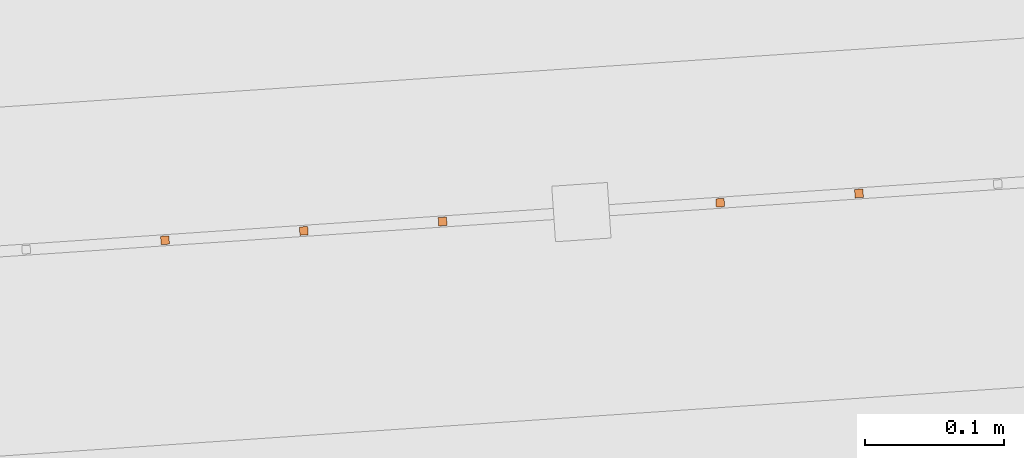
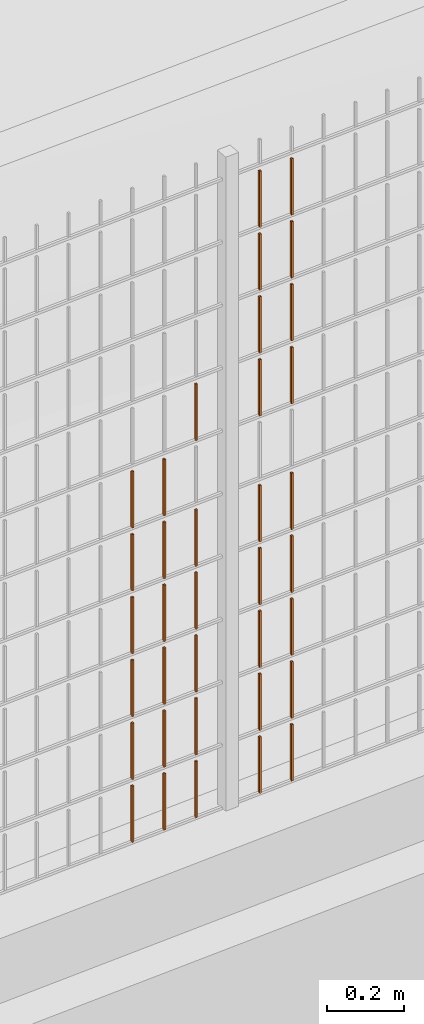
# One storey, part 372 of 1809: 36 proxies, 1 element without a shape of its own.
"""IFC2X3 building model written with IfcOpenShell, lengths in millimetres."""

from ifc_helpers import new_model, entity, si_unit, converted_unit, derived_unit, money_unit, direction, frame, origin_with_axes, place, context, subcontext, project, spatial, faceted_brep, source, transform, mapped, material, type_object, element, aggregate, save


model = new_model("IFC2X3")

# Units and contexts
model_context = context("Model", 3, precision=0.01, world=origin_with_axes(), true_north=direction((0.0, 1.0)))
body_context = subcontext(model_context, "Body", "Model", "MODEL_VIEW")
ifc_project = project(units=[si_unit("LENGTHUNIT", "METRE", prefix="MILLI"), si_unit("AREAUNIT", "SQUARE_METRE"), si_unit("VOLUMEUNIT", "CUBIC_METRE"), converted_unit("PLANEANGLEUNIT", "DEGREE", entity("IfcPlaneAngleMeasure", 0.0174532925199), si_unit("PLANEANGLEUNIT", "RADIAN"), dimensions=[0, 0, 0, 0, 0, 0, 0]), si_unit("SOLIDANGLEUNIT", "STERADIAN"), money_unit("EUR"), converted_unit("TIMEUNIT", "Year", entity("IfcTimeMeasure", 31556926.0), si_unit("TIMEUNIT", "SECOND"), dimensions=[0, 0, 1, 0, 0, 0, 0]), si_unit("MASSUNIT", "GRAM", prefix="KILO"), si_unit("THERMODYNAMICTEMPERATUREUNIT", "DEGREE_CELSIUS"), si_unit("LUMINOUSINTENSITYUNIT", "LUMEN"), si_unit("ENERGYUNIT", "JOULE", prefix="MEGA"), derived_unit("THERMALCONDUCTANCEUNIT", [(si_unit("POWERUNIT", "WATT"), 1), (si_unit("LENGTHUNIT", "METRE"), -1), (si_unit("THERMODYNAMICTEMPERATUREUNIT", "KELVIN"), -1)]), derived_unit("SPECIFICHEATCAPACITYUNIT", [(si_unit("ENERGYUNIT", "JOULE"), 1), (si_unit("MASSUNIT", "GRAM", prefix="KILO"), -1), (si_unit("THERMODYNAMICTEMPERATUREUNIT", "KELVIN"), -1)]), derived_unit("MASSDENSITYUNIT", [(si_unit("MASSUNIT", "GRAM", prefix="KILO"), 1), (si_unit("VOLUMEUNIT", "CUBIC_METRE"), -1)])], contexts=[model_context])

# Site, building, storey
site_placement = place(None, origin_with_axes())
site = spatial("IfcSite", under=ifc_project, at=site_placement, Name="Politse- ja Piirivalveameti ning Päästeameti ühishoone", CompositionType="ELEMENT")
building_placement = place(site_placement, origin_with_axes())
building = spatial("IfcBuilding", under=site, at=building_placement, Name="Politse- ja Piirivalveameti ning Päästeameti ühishoone", CompositionType="ELEMENT")
storey_placement = place(building_placement, origin_with_axes())
storey = spatial("IfcBuildingStorey", under=building, at=storey_placement, Name="Esimene korrus", CompositionType="ELEMENT", Elevation=0.0)

# Proxies
building_element_proxy_type_1 = type_object("IfcBuildingElementProxyType", Name="Railing Type", PredefinedType="NOTDEFINED")
proxy_1_placement = place(storey_placement, frame((89252.001212, -29183.4766571, 203.661247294), z_axis=(0.0, 0.0, 1.0), x_axis=(1.0, 0.0, 0.0)))
proxy_1 = element("IfcBuildingElementProxy", 1, at=proxy_1_placement, inside=storey, type_object=building_element_proxy_type_1, Name="PIIRDEAED")
ifc_material = material(Name="ET-03_Raud")
building_element_proxy_type_2 = type_object("IfcBuildingElementProxyType", Name="IfcBuildingElementProxy", PredefinedType="NOTDEFINED")
shared_shape_1 = source(origin_with_axes(), body_context, "Body", "Brep", [
    faceted_brep([(3.0, 3.0, -0.000752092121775), (-3.0, 3.0, -0.000752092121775), (-3.0, 3.0, 179.99926046), (3.0, 3.0, 179.99926046), (3.0, -3.0, 0.000752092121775), (-3.0, -3.0, 0.000752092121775), (-3.0, -3.0, 180.000764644), (3.0, -3.0, 180.000764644)], [[[0, 1, 2, 3]], [[0, 4, 5, 1]], [[1, 5, 6, 2]], [[3, 2, 6, 7]], [[4, 0, 3, 7]], [[5, 4, 7, 6]]]),
])
proxy_2_placement = place(proxy_1_placement, frame((-19582.0672878, -18620.4695068, 22.3140263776), z_axis=(0.0, 0.0, 1.0), x_axis=(1.0, 0.0, 0.0)))
proxy_2 = element("IfcBuildingElementProxy", 2, at=proxy_2_placement, type_object=building_element_proxy_type_2, material=ifc_material, Name="BALUSTER - 001", context=body_context, shape_type="MappedRepresentation", body=[
    mapped(shared_shape_1, transform((0.0, 0.0, 0.0), x_axis=(-0.0673926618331, 0.997726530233, 0.0), y_axis=(-0.997726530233, -0.0673926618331, 0.0), z_axis=(0.0, 0.0, 1.0))),
])
shared_shape_2 = source(origin_with_axes(), body_context, "Body", "Brep", [
    faceted_brep([(3.0, 3.0, -0.000752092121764), (-3.0, 3.0, -0.000752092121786), (-3.0, 3.0, 179.99926046), (3.0, 3.0, 179.99926046), (3.0, -3.0, 0.000752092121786), (-3.0, -3.0, 0.000752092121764), (-3.0, -3.0, 180.000764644), (3.0, -3.0, 180.000764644)], [[[0, 1, 2, 3]], [[0, 4, 5, 1]], [[1, 5, 6, 2]], [[3, 2, 6, 7]], [[4, 0, 3, 7]], [[5, 4, 7, 6]]]),
])
proxy_3_placement = place(proxy_1_placement, frame((-20080.9305529, -18654.1658378, 222.188677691), z_axis=(0.0, 0.0, 1.0), x_axis=(1.0, 0.0, 0.0)))
proxy_3 = element("IfcBuildingElementProxy", 3, at=proxy_3_placement, type_object=building_element_proxy_type_2, material=ifc_material, Name="BALUSTER - 001", context=body_context, shape_type="MappedRepresentation", body=[
    mapped(shared_shape_2, transform((0.0, 0.0, 0.0), x_axis=(-0.0673926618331, 0.997726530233, 0.0), y_axis=(-0.997726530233, -0.0673926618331, 0.0), z_axis=(0.0, 0.0, 1.0))),
])
proxy_4_placement = place(proxy_1_placement, frame((-20080.9305529, -18654.1658378, 422.188677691), z_axis=(0.0, 0.0, 1.0), x_axis=(1.0, 0.0, 0.0)))
proxy_4 = element("IfcBuildingElementProxy", 4, at=proxy_4_placement, type_object=building_element_proxy_type_2, material=ifc_material, Name="BALUSTER - 001", context=body_context, shape_type="MappedRepresentation", body=[
    mapped(shared_shape_2, transform((0.0, 0.0, 0.0), x_axis=(-0.0673926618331, 0.997726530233, 0.0), y_axis=(-0.997726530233, -0.0673926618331, 0.0), z_axis=(0.0, 0.0, 1.0))),
])
shared_shape_3 = source(origin_with_axes(), body_context, "Body", "Brep", [
    faceted_brep([(3.0, 3.0, -0.000752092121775), (-3.0, 3.0, -0.000752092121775), (-3.0, 3.0, 179.99926046), (3.0, 3.0, 179.99926046), (3.0, -3.0, 0.000752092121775), (-3.0, -3.0, 0.000752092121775), (-3.0, -3.0, 180.000764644), (3.0, -3.0, 180.000764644)], [[[0, 1, 2, 3]], [[0, 4, 5, 1]], [[1, 5, 6, 2]], [[3, 2, 6, 7]], [[4, 0, 3, 7]], [[5, 4, 7, 6]]]),
])
proxy_5_placement = place(proxy_1_placement, frame((-19981.1578998, -18647.4265716, 222.213747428), z_axis=(0.0, 0.0, 1.0), x_axis=(1.0, 0.0, 0.0)))
proxy_5 = element("IfcBuildingElementProxy", 5, at=proxy_5_placement, type_object=building_element_proxy_type_2, material=ifc_material, Name="BALUSTER - 001", context=body_context, shape_type="MappedRepresentation", body=[
    mapped(shared_shape_3, transform((0.0, 0.0, 0.0), x_axis=(-0.0673926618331, 0.997726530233, 0.0), y_axis=(-0.997726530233, -0.0673926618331, 0.0), z_axis=(0.0, 0.0, 1.0))),
])
shared_shape_4 = source(origin_with_axes(), body_context, "Body", "Brep", [
    faceted_brep([(3.0, 3.0, -0.000752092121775), (-3.0, 3.0, -0.000752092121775), (-3.0, 3.0, 179.99926046), (3.0, 3.0, 179.99926046), (3.0, -3.0, 0.000752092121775), (-3.0, -3.0, 0.000752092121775), (-3.0, -3.0, 180.000764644), (3.0, -3.0, 180.000764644)], [[[0, 1, 2, 3]], [[0, 4, 5, 1]], [[1, 5, 6, 2]], [[3, 2, 6, 7]], [[4, 0, 3, 7]], [[5, 4, 7, 6]]]),
])
proxy_6_placement = place(proxy_1_placement, frame((-19582.0672878, -18620.4695068, 222.314026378), z_axis=(0.0, 0.0, 1.0), x_axis=(1.0, 0.0, 0.0)))
proxy_6 = element("IfcBuildingElementProxy", 6, at=proxy_6_placement, type_object=building_element_proxy_type_2, material=ifc_material, Name="BALUSTER - 001", context=body_context, shape_type="MappedRepresentation", body=[
    mapped(shared_shape_4, transform((0.0, 0.0, 0.0), x_axis=(-0.0673926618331, 0.997726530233, 0.0), y_axis=(-0.997726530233, -0.0673926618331, 0.0), z_axis=(0.0, 0.0, 1.0))),
])
proxy_7_placement = place(proxy_1_placement, frame((-19582.0672878, -18620.4695068, 422.314026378), z_axis=(0.0, 0.0, 1.0), x_axis=(1.0, 0.0, 0.0)))
proxy_7 = element("IfcBuildingElementProxy", 7, at=proxy_7_placement, type_object=building_element_proxy_type_2, material=ifc_material, Name="BALUSTER - 001", context=body_context, shape_type="MappedRepresentation", body=[
    mapped(shared_shape_4, transform((0.0, 0.0, 0.0), x_axis=(-0.0673926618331, 0.997726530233, 0.0), y_axis=(-0.997726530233, -0.0673926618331, 0.0), z_axis=(0.0, 0.0, 1.0))),
])
shared_shape_5 = source(origin_with_axes(), body_context, "Body", "Brep", [
    faceted_brep([(3.0, 3.0, -0.000752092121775), (-3.0, 3.0, -0.000752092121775), (-3.0, 3.0, 179.99926046), (3.0, 3.0, 179.99926046), (3.0, -3.0, 0.000752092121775), (-3.0, -3.0, 0.000752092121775), (-3.0, -3.0, 180.000764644), (3.0, -3.0, 180.000764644)], [[[0, 1, 2, 3]], [[0, 4, 5, 1]], [[1, 5, 6, 2]], [[3, 2, 6, 7]], [[4, 0, 3, 7]], [[5, 4, 7, 6]]]),
])
proxy_8_placement = place(proxy_1_placement, frame((-19681.8399408, -18627.208773, 422.28895664), z_axis=(0.0, 0.0, 1.0), x_axis=(1.0, 0.0, 0.0)))
proxy_8 = element("IfcBuildingElementProxy", 8, at=proxy_8_placement, type_object=building_element_proxy_type_2, material=ifc_material, Name="BALUSTER - 001", context=body_context, shape_type="MappedRepresentation", body=[
    mapped(shared_shape_5, transform((0.0, 0.0, 0.0), x_axis=(-0.0673926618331, 0.997726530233, 0.0), y_axis=(-0.997726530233, -0.0673926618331, 0.0), z_axis=(0.0, 0.0, 1.0))),
])
proxy_9_placement = place(proxy_1_placement, frame((-19681.8399408, -18627.208773, 622.28895664), z_axis=(0.0, 0.0, 1.0), x_axis=(1.0, 0.0, 0.0)))
proxy_9 = element("IfcBuildingElementProxy", 9, at=proxy_9_placement, type_object=building_element_proxy_type_2, material=ifc_material, Name="BALUSTER - 001", context=body_context, shape_type="MappedRepresentation", body=[
    mapped(shared_shape_5, transform((0.0, 0.0, 0.0), x_axis=(-0.0673926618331, 0.997726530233, 0.0), y_axis=(-0.997726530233, -0.0673926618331, 0.0), z_axis=(0.0, 0.0, 1.0))),
])
proxy_10_placement = place(proxy_1_placement, frame((-19981.1578998, -18647.4265716, 422.213747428), z_axis=(0.0, 0.0, 1.0), x_axis=(1.0, 0.0, 0.0)))
proxy_10 = element("IfcBuildingElementProxy", 10, at=proxy_10_placement, type_object=building_element_proxy_type_2, material=ifc_material, Name="BALUSTER - 001", context=body_context, shape_type="MappedRepresentation", body=[
    mapped(shared_shape_5, transform((0.0, 0.0, 0.0), x_axis=(-0.0673926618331, 0.997726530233, 0.0), y_axis=(-0.997726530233, -0.0673926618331, 0.0), z_axis=(0.0, 0.0, 1.0))),
])
proxy_11_placement = place(proxy_1_placement, frame((-19981.1578998, -18647.4265716, 622.213747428), z_axis=(0.0, 0.0, 1.0), x_axis=(1.0, 0.0, 0.0)))
proxy_11 = element("IfcBuildingElementProxy", 11, at=proxy_11_placement, type_object=building_element_proxy_type_2, material=ifc_material, Name="BALUSTER - 001", context=body_context, shape_type="MappedRepresentation", body=[
    mapped(shared_shape_5, transform((0.0, 0.0, 0.0), x_axis=(-0.0673926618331, 0.997726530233, 0.0), y_axis=(-0.997726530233, -0.0673926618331, 0.0), z_axis=(0.0, 0.0, 1.0))),
])
shared_shape_6 = source(origin_with_axes(), body_context, "Body", "Brep", [
    faceted_brep([(3.0, 3.0, -0.000752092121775), (-3.0, 3.0, -0.000752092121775), (-3.0, 3.0, 179.99926046), (3.0, 3.0, 179.99926046), (3.0, -3.0, 0.000752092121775), (-3.0, -3.0, 0.000752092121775), (-3.0, -3.0, 180.000764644), (3.0, -3.0, 180.000764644)], [[[0, 1, 2, 3]], [[0, 4, 5, 1]], [[1, 5, 6, 2]], [[3, 2, 6, 7]], [[4, 0, 3, 7]], [[5, 4, 7, 6]]]),
])
proxy_12_placement = place(proxy_1_placement, frame((-19582.0672878, -18620.4695068, 622.314026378), z_axis=(0.0, 0.0, 1.0), x_axis=(1.0, 0.0, 0.0)))
proxy_12 = element("IfcBuildingElementProxy", 12, at=proxy_12_placement, type_object=building_element_proxy_type_2, material=ifc_material, Name="BALUSTER - 001", context=body_context, shape_type="MappedRepresentation", body=[
    mapped(shared_shape_6, transform((0.0, 0.0, 0.0), x_axis=(-0.0673926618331, 0.997726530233, 0.0), y_axis=(-0.997726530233, -0.0673926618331, 0.0), z_axis=(0.0, 0.0, 1.0))),
])
shared_shape_7 = source(origin_with_axes(), body_context, "Body", "Brep", [
    faceted_brep([(3.0, 3.0, -0.000752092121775), (-3.0, 3.0, -0.000752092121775), (-3.0, 3.0, 179.99926046), (3.0, 3.0, 179.99926046), (3.0, -3.0, 0.000752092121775), (-3.0, -3.0, 0.000752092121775), (-3.0, -3.0, 180.000764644), (3.0, -3.0, 180.000764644)], [[[0, 1, 2, 3]], [[0, 4, 5, 1]], [[1, 5, 6, 2]], [[3, 2, 6, 7]], [[4, 0, 3, 7]], [[5, 4, 7, 6]]]),
])
proxy_13_placement = place(proxy_1_placement, frame((-19582.0672878, -18620.4695068, 1222.31402638), z_axis=(0.0, 0.0, 1.0), x_axis=(1.0, 0.0, 0.0)))
proxy_13 = element("IfcBuildingElementProxy", 13, at=proxy_13_placement, type_object=building_element_proxy_type_2, material=ifc_material, Name="BALUSTER - 001", context=body_context, shape_type="MappedRepresentation", body=[
    mapped(shared_shape_7, transform((0.0, 0.0, 0.0), x_axis=(-0.0673926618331, 0.997726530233, 0.0), y_axis=(-0.997726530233, -0.0673926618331, 0.0), z_axis=(0.0, 0.0, 1.0))),
])
shared_shape_8 = source(origin_with_axes(), body_context, "Body", "Brep", [
    faceted_brep([(3.0, 3.0, -0.000752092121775), (-3.0, 3.0, -0.000752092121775), (-3.0, 3.0, 179.99926046), (3.0, 3.0, 179.99926046), (3.0, -3.0, 0.000752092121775), (-3.0, -3.0, 0.000752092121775), (-3.0, -3.0, 180.000764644), (3.0, -3.0, 180.000764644)], [[[0, 1, 2, 3]], [[0, 4, 5, 1]], [[1, 5, 6, 2]], [[3, 2, 6, 7]], [[4, 0, 3, 7]], [[5, 4, 7, 6]]]),
])
proxy_14_placement = place(proxy_1_placement, frame((-19582.0672878, -18620.4695068, 822.314026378), z_axis=(0.0, 0.0, 1.0), x_axis=(1.0, 0.0, 0.0)))
proxy_14 = element("IfcBuildingElementProxy", 14, at=proxy_14_placement, type_object=building_element_proxy_type_2, material=ifc_material, Name="BALUSTER - 001", context=body_context, shape_type="MappedRepresentation", body=[
    mapped(shared_shape_8, transform((0.0, 0.0, 0.0), x_axis=(-0.0673926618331, 0.997726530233, 0.0), y_axis=(-0.997726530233, -0.0673926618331, 0.0), z_axis=(0.0, 0.0, 1.0))),
])
proxy_15_placement = place(proxy_1_placement, frame((-19582.0672878, -18620.4695068, 1822.31402638), z_axis=(0.0, 0.0, 1.0), x_axis=(1.0, 0.0, 0.0)))
proxy_15 = element("IfcBuildingElementProxy", 15, at=proxy_15_placement, type_object=building_element_proxy_type_2, material=ifc_material, Name="BALUSTER - 001", context=body_context, shape_type="MappedRepresentation", body=[
    mapped(shared_shape_8, transform((0.0, 0.0, 0.0), x_axis=(-0.0673926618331, 0.997726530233, 0.0), y_axis=(-0.997726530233, -0.0673926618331, 0.0), z_axis=(0.0, 0.0, 1.0))),
])
shared_shape_9 = source(origin_with_axes(), body_context, "Body", "Brep", [
    faceted_brep([(3.0, 3.0, -0.000752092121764), (-3.0, 3.0, -0.000752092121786), (-3.0, 3.0, 179.99926046), (3.0, 3.0, 179.99926046), (3.0, -3.0, 0.000752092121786), (-3.0, -3.0, 0.000752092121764), (-3.0, -3.0, 180.000764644), (3.0, -3.0, 180.000764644)], [[[0, 1, 2, 3]], [[0, 4, 5, 1]], [[1, 5, 6, 2]], [[3, 2, 6, 7]], [[4, 0, 3, 7]], [[5, 4, 7, 6]]]),
])
proxy_16_placement = place(proxy_1_placement, frame((-20080.9305529, -18654.1658378, 622.188677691), z_axis=(0.0, 0.0, 1.0), x_axis=(1.0, 0.0, 0.0)))
proxy_16 = element("IfcBuildingElementProxy", 16, at=proxy_16_placement, type_object=building_element_proxy_type_2, material=ifc_material, Name="BALUSTER - 001", context=body_context, shape_type="MappedRepresentation", body=[
    mapped(shared_shape_9, transform((0.0, 0.0, 0.0), x_axis=(-0.0673926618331, 0.997726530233, 0.0), y_axis=(-0.997726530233, -0.0673926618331, 0.0), z_axis=(0.0, 0.0, 1.0))),
])
shared_shape_10 = source(origin_with_axes(), body_context, "Body", "Brep", [
    faceted_brep([(3.0, 3.0, -0.000752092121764), (-3.0, 3.0, -0.000752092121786), (-3.0, 3.0, 179.99926046), (3.0, 3.0, 179.99926046), (3.0, -3.0, 0.000752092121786), (-3.0, -3.0, 0.000752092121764), (-3.0, -3.0, 180.000764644), (3.0, -3.0, 180.000764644)], [[[0, 1, 2, 3]], [[0, 4, 5, 1]], [[1, 5, 6, 2]], [[3, 2, 6, 7]], [[4, 0, 3, 7]], [[5, 4, 7, 6]]]),
])
proxy_17_placement = place(proxy_1_placement, frame((-19681.8399408, -18627.208773, 1222.28895664), z_axis=(0.0, 0.0, 1.0), x_axis=(1.0, 0.0, 0.0)))
proxy_17 = element("IfcBuildingElementProxy", 17, at=proxy_17_placement, type_object=building_element_proxy_type_2, material=ifc_material, Name="BALUSTER - 001", context=body_context, shape_type="MappedRepresentation", body=[
    mapped(shared_shape_10, transform((0.0, 0.0, 0.0), x_axis=(-0.0673926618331, 0.997726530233, 0.0), y_axis=(-0.997726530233, -0.0673926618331, 0.0), z_axis=(0.0, 0.0, 1.0))),
])
shared_shape_11 = source(origin_with_axes(), body_context, "Body", "Brep", [
    faceted_brep([(3.0, 3.0, -0.000752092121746), (-3.0, 3.0, -0.000752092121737), (-3.00000000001, 2.99999999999, 179.99926046), (2.99999999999, 2.99999999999, 179.99926046), (3.0, -3.0, 0.000752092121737), (-3.0, -3.0, 0.000752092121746), (-3.00000000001, -3.00000000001, 180.000764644), (2.99999999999, -3.00000000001, 180.000764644)], [[[0, 1, 2, 3]], [[0, 4, 5, 1]], [[1, 5, 6, 2]], [[3, 2, 6, 7]], [[4, 0, 3, 7]], [[5, 4, 7, 6]]]),
])
proxy_18_placement = place(proxy_1_placement, frame((-19981.1578998, -18647.4265716, 1022.21374743), z_axis=(0.0, 0.0, 1.0), x_axis=(1.0, 0.0, 0.0)))
proxy_18 = element("IfcBuildingElementProxy", 18, at=proxy_18_placement, type_object=building_element_proxy_type_2, material=ifc_material, Name="BALUSTER - 001", context=body_context, shape_type="MappedRepresentation", body=[
    mapped(shared_shape_11, transform((0.0, 0.0, 0.0), x_axis=(-0.0673926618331, 0.997726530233, 0.0), y_axis=(-0.997726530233, -0.0673926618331, 0.0), z_axis=(0.0, 0.0, 1.0))),
])
proxy_19_placement = place(proxy_1_placement, frame((-20080.9305529, -18654.1658378, 1022.18867769), z_axis=(0.0, 0.0, 1.0), x_axis=(1.0, 0.0, 0.0)))
proxy_19 = element("IfcBuildingElementProxy", 19, at=proxy_19_placement, type_object=building_element_proxy_type_2, material=ifc_material, Name="BALUSTER - 001", context=body_context, shape_type="MappedRepresentation", body=[
    mapped(shared_shape_11, transform((0.0, 0.0, 0.0), x_axis=(-0.0673926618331, 0.997726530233, 0.0), y_axis=(-0.997726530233, -0.0673926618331, 0.0), z_axis=(0.0, 0.0, 1.0))),
])
shared_shape_12 = source(origin_with_axes(), body_context, "Body", "Brep", [
    faceted_brep([(3.0, 3.0, -0.000752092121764), (-3.0, 3.0, -0.000752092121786), (-3.0, 3.0, 179.99926046), (3.0, 3.0, 179.99926046), (3.0, -3.0, 0.000752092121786), (-3.0, -3.0, 0.000752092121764), (-3.0, -3.0, 180.000764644), (3.0, -3.0, 180.000764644)], [[[0, 1, 2, 3]], [[0, 4, 5, 1]], [[1, 5, 6, 2]], [[3, 2, 6, 7]], [[4, 0, 3, 7]], [[5, 4, 7, 6]]]),
])
proxy_20_placement = place(proxy_1_placement, frame((-19681.8399408, -18627.208773, 1822.28895664), z_axis=(0.0, 0.0, 1.0), x_axis=(1.0, 0.0, 0.0)))
proxy_20 = element("IfcBuildingElementProxy", 20, at=proxy_20_placement, type_object=building_element_proxy_type_2, material=ifc_material, Name="BALUSTER - 001", context=body_context, shape_type="MappedRepresentation", body=[
    mapped(shared_shape_12, transform((0.0, 0.0, 0.0), x_axis=(-0.0673926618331, 0.997726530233, 0.0), y_axis=(-0.997726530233, -0.0673926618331, 0.0), z_axis=(0.0, 0.0, 1.0))),
])
shared_shape_13 = source(origin_with_axes(), body_context, "Body", "Brep", [
    faceted_brep([(3.0, 3.0, -0.000752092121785), (-3.0, 3.0, -0.000752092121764), (-3.0, 3.0, 179.99926046), (3.0, 3.0, 179.99926046), (3.0, -3.0, 0.000752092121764), (-3.0, -3.0, 0.000752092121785), (-3.0, -3.0, 180.000764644), (3.0, -3.0, 180.000764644)], [[[0, 1, 2, 3]], [[0, 4, 5, 1]], [[1, 5, 6, 2]], [[3, 2, 6, 7]], [[4, 0, 3, 7]], [[5, 4, 7, 6]]]),
])
proxy_21_placement = place(proxy_1_placement, frame((-19881.3852468, -18640.6873054, 1222.23881717), z_axis=(0.0, 0.0, 1.0), x_axis=(1.0, 0.0, 0.0)))
proxy_21 = element("IfcBuildingElementProxy", 21, at=proxy_21_placement, type_object=building_element_proxy_type_2, material=ifc_material, Name="BALUSTER - 001", context=body_context, shape_type="MappedRepresentation", body=[
    mapped(shared_shape_13, transform((0.0, 0.0, 0.0), x_axis=(-0.0673926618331, 0.997726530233, 0.0), y_axis=(-0.997726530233, -0.0673926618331, 0.0), z_axis=(0.0, 0.0, 1.0))),
])
shared_shape_14 = source(origin_with_axes(), body_context, "Body", "Brep", [
    faceted_brep([(3.0, 3.0, -0.000752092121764), (-3.0, 3.0, -0.000752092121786), (-3.0, 3.0, 179.99926046), (3.0, 3.0, 179.99926046), (3.0, -3.0, 0.000752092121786), (-3.0, -3.0, 0.000752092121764), (-3.0, -3.0, 180.000764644), (3.0, -3.0, 180.000764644)], [[[0, 1, 2, 3]], [[0, 4, 5, 1]], [[1, 5, 6, 2]], [[3, 2, 6, 7]], [[4, 0, 3, 7]], [[5, 4, 7, 6]]]),
])
proxy_22_placement = place(proxy_1_placement, frame((-19681.8399408, -18627.208773, 1422.28895664), z_axis=(0.0, 0.0, 1.0), x_axis=(1.0, 0.0, 0.0)))
proxy_22 = element("IfcBuildingElementProxy", 22, at=proxy_22_placement, type_object=building_element_proxy_type_2, material=ifc_material, Name="BALUSTER - 001", context=body_context, shape_type="MappedRepresentation", body=[
    mapped(shared_shape_14, transform((0.0, 0.0, 0.0), x_axis=(-0.0673926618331, 0.997726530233, 0.0), y_axis=(-0.997726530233, -0.0673926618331, 0.0), z_axis=(0.0, 0.0, 1.0))),
])
shared_shape_15 = source(origin_with_axes(), body_context, "Body", "Brep", [
    faceted_brep([(3.0, 3.0, -0.000752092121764), (-3.0, 3.0, -0.000752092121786), (-3.0, 3.0, 179.99926046), (3.0, 3.0, 179.99926046), (3.0, -3.0, 0.000752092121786), (-3.0, -3.0, 0.000752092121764), (-3.0, -3.0, 180.000764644), (3.0, -3.0, 180.000764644)], [[[0, 1, 2, 3]], [[0, 4, 5, 1]], [[1, 5, 6, 2]], [[3, 2, 6, 7]], [[4, 0, 3, 7]], [[5, 4, 7, 6]]]),
])
proxy_23_placement = place(proxy_1_placement, frame((-19681.8399408, -18627.208773, 1622.28895664), z_axis=(0.0, 0.0, 1.0), x_axis=(1.0, 0.0, 0.0)))
proxy_23 = element("IfcBuildingElementProxy", 23, at=proxy_23_placement, type_object=building_element_proxy_type_2, material=ifc_material, Name="BALUSTER - 001", context=body_context, shape_type="MappedRepresentation", body=[
    mapped(shared_shape_15, transform((0.0, 0.0, 0.0), x_axis=(-0.0673926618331, 0.997726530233, 0.0), y_axis=(-0.997726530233, -0.0673926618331, 0.0), z_axis=(0.0, 0.0, 1.0))),
])
shared_shape_16 = source(origin_with_axes(), body_context, "Body", "Brep", [
    faceted_brep([(3.0, 3.0, -0.000752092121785), (-3.0, 3.0, -0.000752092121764), (-3.0, 3.0, 179.99926046), (3.0, 3.0, 179.99926046), (3.0, -3.0, 0.000752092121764), (-3.0, -3.0, 0.000752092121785), (-3.0, -3.0, 180.000764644), (3.0, -3.0, 180.000764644)], [[[0, 1, 2, 3]], [[0, 4, 5, 1]], [[1, 5, 6, 2]], [[3, 2, 6, 7]], [[4, 0, 3, 7]], [[5, 4, 7, 6]]]),
])
proxy_24_placement = place(proxy_1_placement, frame((-19881.3852468, -18640.6873054, 822.238817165), z_axis=(0.0, 0.0, 1.0), x_axis=(1.0, 0.0, 0.0)))
proxy_24 = element("IfcBuildingElementProxy", 24, at=proxy_24_placement, type_object=building_element_proxy_type_2, material=ifc_material, Name="BALUSTER - 001", context=body_context, shape_type="MappedRepresentation", body=[
    mapped(shared_shape_16, transform((0.0, 0.0, 0.0), x_axis=(-0.0673926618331, 0.997726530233, 0.0), y_axis=(-0.997726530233, -0.0673926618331, 0.0), z_axis=(0.0, 0.0, 1.0))),
])
shared_shape_17 = source(origin_with_axes(), body_context, "Body", "Brep", [
    faceted_brep([(3.0, 3.0, -0.000752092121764), (-3.0, 3.0, -0.000752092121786), (-3.0, 3.0, 179.99926046), (3.0, 3.0, 179.99926046), (3.0, -3.0, 0.000752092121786), (-3.0, -3.0, 0.000752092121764), (-3.0, -3.0, 180.000764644), (3.0, -3.0, 180.000764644)], [[[0, 1, 2, 3]], [[0, 4, 5, 1]], [[1, 5, 6, 2]], [[3, 2, 6, 7]], [[4, 0, 3, 7]], [[5, 4, 7, 6]]]),
])
proxy_25_placement = place(proxy_1_placement, frame((-20080.9305529, -18654.1658378, 22.1886776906), z_axis=(0.0, 0.0, 1.0), x_axis=(1.0, 0.0, 0.0)))
proxy_25 = element("IfcBuildingElementProxy", 25, at=proxy_25_placement, type_object=building_element_proxy_type_2, material=ifc_material, Name="BALUSTER - 001", context=body_context, shape_type="MappedRepresentation", body=[
    mapped(shared_shape_17, transform((0.0, 0.0, 0.0), x_axis=(-0.0673926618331, 0.997726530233, 0.0), y_axis=(-0.997726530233, -0.0673926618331, 0.0), z_axis=(0.0, 0.0, 1.0))),
])
shared_shape_18 = source(origin_with_axes(), body_context, "Body", "Brep", [
    faceted_brep([(3.0, 3.0, -0.000752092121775), (-3.0, 3.0, -0.000752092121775), (-3.0, 3.0, 179.99926046), (3.0, 3.0, 179.99926046), (3.0, -3.0, 0.000752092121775), (-3.0, -3.0, 0.000752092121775), (-3.0, -3.0, 180.000764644), (3.0, -3.0, 180.000764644)], [[[0, 1, 2, 3]], [[0, 4, 5, 1]], [[1, 5, 6, 2]], [[3, 2, 6, 7]], [[4, 0, 3, 7]], [[5, 4, 7, 6]]]),
])
proxy_26_placement = place(proxy_1_placement, frame((-19681.8399408, -18627.208773, 22.2889566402), z_axis=(0.0, 0.0, 1.0), x_axis=(1.0, 0.0, 0.0)))
proxy_26 = element("IfcBuildingElementProxy", 26, at=proxy_26_placement, type_object=building_element_proxy_type_2, material=ifc_material, Name="BALUSTER - 001", context=body_context, shape_type="MappedRepresentation", body=[
    mapped(shared_shape_18, transform((0.0, 0.0, 0.0), x_axis=(-0.0673926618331, 0.997726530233, 0.0), y_axis=(-0.997726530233, -0.0673926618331, 0.0), z_axis=(0.0, 0.0, 1.0))),
])
proxy_27_placement = place(proxy_1_placement, frame((-19981.1578998, -18647.4265716, 22.213747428), z_axis=(0.0, 0.0, 1.0), x_axis=(1.0, 0.0, 0.0)))
proxy_27 = element("IfcBuildingElementProxy", 27, at=proxy_27_placement, type_object=building_element_proxy_type_2, material=ifc_material, Name="BALUSTER - 001", context=body_context, shape_type="MappedRepresentation", body=[
    mapped(shared_shape_18, transform((0.0, 0.0, 0.0), x_axis=(-0.0673926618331, 0.997726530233, 0.0), y_axis=(-0.997726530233, -0.0673926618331, 0.0), z_axis=(0.0, 0.0, 1.0))),
])
shared_shape_19 = source(origin_with_axes(), body_context, "Body", "Brep", [
    faceted_brep([(3.0, 3.0, -0.000752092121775), (-3.0, 3.0, -0.000752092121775), (-3.0, 3.0, 179.99926046), (3.0, 3.0, 179.99926046), (3.0, -3.0, 0.000752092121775), (-3.0, -3.0, 0.000752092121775), (-3.0, -3.0, 180.000764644), (3.0, -3.0, 180.000764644)], [[[0, 1, 2, 3]], [[0, 4, 5, 1]], [[1, 5, 6, 2]], [[3, 2, 6, 7]], [[4, 0, 3, 7]], [[5, 4, 7, 6]]]),
])
proxy_28_placement = place(proxy_1_placement, frame((-19681.8399408, -18627.208773, 222.28895664), z_axis=(0.0, 0.0, 1.0), x_axis=(1.0, 0.0, 0.0)))
proxy_28 = element("IfcBuildingElementProxy", 28, at=proxy_28_placement, type_object=building_element_proxy_type_2, material=ifc_material, Name="BALUSTER - 001", context=body_context, shape_type="MappedRepresentation", body=[
    mapped(shared_shape_19, transform((0.0, 0.0, 0.0), x_axis=(-0.0673926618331, 0.997726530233, 0.0), y_axis=(-0.997726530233, -0.0673926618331, 0.0), z_axis=(0.0, 0.0, 1.0))),
])
shared_shape_20 = source(origin_with_axes(), body_context, "Body", "Brep", [
    faceted_brep([(3.0, 3.0, -0.000752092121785), (-3.0, 3.0, -0.000752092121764), (-3.0, 3.0, 179.99926046), (3.0, 3.0, 179.99926046), (3.0, -3.0, 0.000752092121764), (-3.0, -3.0, 0.000752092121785), (-3.0, -3.0, 180.000764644), (3.0, -3.0, 180.000764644)], [[[0, 1, 2, 3]], [[0, 4, 5, 1]], [[1, 5, 6, 2]], [[3, 2, 6, 7]], [[4, 0, 3, 7]], [[5, 4, 7, 6]]]),
])
proxy_29_placement = place(proxy_1_placement, frame((-19881.3852468, -18640.6873054, 422.238817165), z_axis=(0.0, 0.0, 1.0), x_axis=(1.0, 0.0, 0.0)))
proxy_29 = element("IfcBuildingElementProxy", 29, at=proxy_29_placement, type_object=building_element_proxy_type_2, material=ifc_material, Name="BALUSTER - 001", context=body_context, shape_type="MappedRepresentation", body=[
    mapped(shared_shape_20, transform((0.0, 0.0, 0.0), x_axis=(-0.0673926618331, 0.997726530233, 0.0), y_axis=(-0.997726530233, -0.0673926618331, 0.0), z_axis=(0.0, 0.0, 1.0))),
])
shared_shape_21 = source(origin_with_axes(), body_context, "Body", "Brep", [
    faceted_brep([(3.0, 3.0, -0.000752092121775), (-3.0, 3.0, -0.000752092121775), (-3.0, 3.0, 179.99926046), (3.0, 3.0, 179.99926046), (3.0, -3.0, 0.000752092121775), (-3.0, -3.0, 0.000752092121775), (-3.0, -3.0, 180.000764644), (3.0, -3.0, 180.000764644)], [[[0, 1, 2, 3]], [[0, 4, 5, 1]], [[1, 5, 6, 2]], [[3, 2, 6, 7]], [[4, 0, 3, 7]], [[5, 4, 7, 6]]]),
])
proxy_30_placement = place(proxy_1_placement, frame((-19681.8399408, -18627.208773, 822.28895664), z_axis=(0.0, 0.0, 1.0), x_axis=(1.0, 0.0, 0.0)))
proxy_30 = element("IfcBuildingElementProxy", 30, at=proxy_30_placement, type_object=building_element_proxy_type_2, material=ifc_material, Name="BALUSTER - 001", context=body_context, shape_type="MappedRepresentation", body=[
    mapped(shared_shape_21, transform((0.0, 0.0, 0.0), x_axis=(-0.0673926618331, 0.997726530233, 0.0), y_axis=(-0.997726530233, -0.0673926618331, 0.0), z_axis=(0.0, 0.0, 1.0))),
])
proxy_31_placement = place(proxy_1_placement, frame((-19981.1578998, -18647.4265716, 822.213747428), z_axis=(0.0, 0.0, 1.0), x_axis=(1.0, 0.0, 0.0)))
proxy_31 = element("IfcBuildingElementProxy", 31, at=proxy_31_placement, type_object=building_element_proxy_type_2, material=ifc_material, Name="BALUSTER - 001", context=body_context, shape_type="MappedRepresentation", body=[
    mapped(shared_shape_21, transform((0.0, 0.0, 0.0), x_axis=(-0.0673926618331, 0.997726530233, 0.0), y_axis=(-0.997726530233, -0.0673926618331, 0.0), z_axis=(0.0, 0.0, 1.0))),
])
shared_shape_22 = source(origin_with_axes(), body_context, "Body", "Brep", [
    faceted_brep([(3.0, 3.0, -0.000752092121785), (-3.0, 3.0, -0.000752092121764), (-3.0, 3.0, 179.99926046), (3.0, 3.0, 179.99926046), (3.0, -3.0, 0.000752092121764), (-3.0, -3.0, 0.000752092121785), (-3.0, -3.0, 180.000764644), (3.0, -3.0, 180.000764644)], [[[0, 1, 2, 3]], [[0, 4, 5, 1]], [[1, 5, 6, 2]], [[3, 2, 6, 7]], [[4, 0, 3, 7]], [[5, 4, 7, 6]]]),
])
proxy_32_placement = place(proxy_1_placement, frame((-19881.3852468, -18640.6873054, 622.238817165), z_axis=(0.0, 0.0, 1.0), x_axis=(1.0, 0.0, 0.0)))
proxy_32 = element("IfcBuildingElementProxy", 32, at=proxy_32_placement, type_object=building_element_proxy_type_2, material=ifc_material, Name="BALUSTER - 001", context=body_context, shape_type="MappedRepresentation", body=[
    mapped(shared_shape_22, transform((0.0, 0.0, 0.0), x_axis=(-0.0673926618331, 0.997726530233, 0.0), y_axis=(-0.997726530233, -0.0673926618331, 0.0), z_axis=(0.0, 0.0, 1.0))),
])
shared_shape_23 = source(origin_with_axes(), body_context, "Body", "Brep", [
    faceted_brep([(3.0, 3.0, -0.000752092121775), (-3.0, 3.0, -0.000752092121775), (-3.0, 3.0, 179.99926046), (3.0, 3.0, 179.99926046), (3.0, -3.0, 0.000752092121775), (-3.0, -3.0, 0.000752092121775), (-3.0, -3.0, 180.000764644), (3.0, -3.0, 180.000764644)], [[[0, 1, 2, 3]], [[0, 4, 5, 1]], [[1, 5, 6, 2]], [[3, 2, 6, 7]], [[4, 0, 3, 7]], [[5, 4, 7, 6]]]),
])
proxy_33_placement = place(proxy_1_placement, frame((-19582.0672878, -18620.4695068, 1422.31402638), z_axis=(0.0, 0.0, 1.0), x_axis=(1.0, 0.0, 0.0)))
proxy_33 = element("IfcBuildingElementProxy", 33, at=proxy_33_placement, type_object=building_element_proxy_type_2, material=ifc_material, Name="BALUSTER - 001", context=body_context, shape_type="MappedRepresentation", body=[
    mapped(shared_shape_23, transform((0.0, 0.0, 0.0), x_axis=(-0.0673926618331, 0.997726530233, 0.0), y_axis=(-0.997726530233, -0.0673926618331, 0.0), z_axis=(0.0, 0.0, 1.0))),
])
proxy_34_placement = place(proxy_1_placement, frame((-19582.0672878, -18620.4695068, 1622.31402638), z_axis=(0.0, 0.0, 1.0), x_axis=(1.0, 0.0, 0.0)))
proxy_34 = element("IfcBuildingElementProxy", 34, at=proxy_34_placement, type_object=building_element_proxy_type_2, material=ifc_material, Name="BALUSTER - 001", context=body_context, shape_type="MappedRepresentation", body=[
    mapped(shared_shape_23, transform((0.0, 0.0, 0.0), x_axis=(-0.0673926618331, 0.997726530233, 0.0), y_axis=(-0.997726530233, -0.0673926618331, 0.0), z_axis=(0.0, 0.0, 1.0))),
])
shared_shape_24 = source(origin_with_axes(), body_context, "Body", "Brep", [
    faceted_brep([(3.0, 3.0, -0.000752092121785), (-3.0, 3.0, -0.000752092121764), (-3.0, 3.0, 179.99926046), (3.0, 3.0, 179.99926046), (3.0, -3.0, 0.000752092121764), (-3.0, -3.0, 0.000752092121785), (-3.0, -3.0, 180.000764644), (3.0, -3.0, 180.000764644)], [[[0, 1, 2, 3]], [[0, 4, 5, 1]], [[1, 5, 6, 2]], [[3, 2, 6, 7]], [[4, 0, 3, 7]], [[5, 4, 7, 6]]]),
])
proxy_35_placement = place(proxy_1_placement, frame((-19881.3852468, -18640.6873054, 22.2388171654), z_axis=(0.0, 0.0, 1.0), x_axis=(1.0, 0.0, 0.0)))
proxy_35 = element("IfcBuildingElementProxy", 35, at=proxy_35_placement, type_object=building_element_proxy_type_2, material=ifc_material, Name="BALUSTER - 001", context=body_context, shape_type="MappedRepresentation", body=[
    mapped(shared_shape_24, transform((0.0, 0.0, 0.0), x_axis=(-0.0673926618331, 0.997726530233, 0.0), y_axis=(-0.997726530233, -0.0673926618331, 0.0), z_axis=(0.0, 0.0, 1.0))),
])
proxy_36_placement = place(proxy_1_placement, frame((-19881.3852468, -18640.6873054, 222.238817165), z_axis=(0.0, 0.0, 1.0), x_axis=(1.0, 0.0, 0.0)))
proxy_36 = element("IfcBuildingElementProxy", 36, at=proxy_36_placement, type_object=building_element_proxy_type_2, material=ifc_material, Name="BALUSTER - 001", context=body_context, shape_type="MappedRepresentation", body=[
    mapped(shared_shape_24, transform((0.0, 0.0, 0.0), x_axis=(-0.0673926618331, 0.997726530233, 0.0), y_axis=(-0.997726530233, -0.0673926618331, 0.0), z_axis=(0.0, 0.0, 1.0))),
])
shared_shape_25 = source(origin_with_axes(), body_context, "Body", "Brep", [
    faceted_brep([(3.0, 3.0, -0.000752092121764), (-3.0, 3.0, -0.000752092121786), (-3.0, 3.0, 179.99926046), (3.0, 3.0, 179.99926046), (3.0, -3.0, 0.000752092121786), (-3.0, -3.0, 0.000752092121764), (-3.0, -3.0, 180.000764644), (3.0, -3.0, 180.000764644)], [[[0, 1, 2, 3]], [[0, 4, 5, 1]], [[1, 5, 6, 2]], [[3, 2, 6, 7]], [[4, 0, 3, 7]], [[5, 4, 7, 6]]]),
])
proxy_37_placement = place(proxy_1_placement, frame((-20080.9305529, -18654.1658378, 822.188677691), z_axis=(0.0, 0.0, 1.0), x_axis=(1.0, 0.0, 0.0)))
proxy_37 = element("IfcBuildingElementProxy", 37, at=proxy_37_placement, type_object=building_element_proxy_type_2, material=ifc_material, Name="BALUSTER - 001", context=body_context, shape_type="MappedRepresentation", body=[
    mapped(shared_shape_25, transform((0.0, 0.0, 0.0), x_axis=(-0.0673926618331, 0.997726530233, 0.0), y_axis=(-0.997726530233, -0.0673926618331, 0.0), z_axis=(0.0, 0.0, 1.0))),
])
aggregate(proxy_1, [proxy_2, proxy_26, proxy_6, proxy_28, proxy_7, proxy_8, proxy_12, proxy_9, proxy_14, proxy_30, proxy_13, proxy_17, proxy_33, proxy_22, proxy_34, proxy_23, proxy_15, proxy_20, proxy_35, proxy_27, proxy_25, proxy_36, proxy_5, proxy_3, proxy_29, proxy_10, proxy_4, proxy_32, proxy_11, proxy_16, proxy_24, proxy_31, proxy_37, proxy_18, proxy_19, proxy_21])

save(model, "model.ifc")
